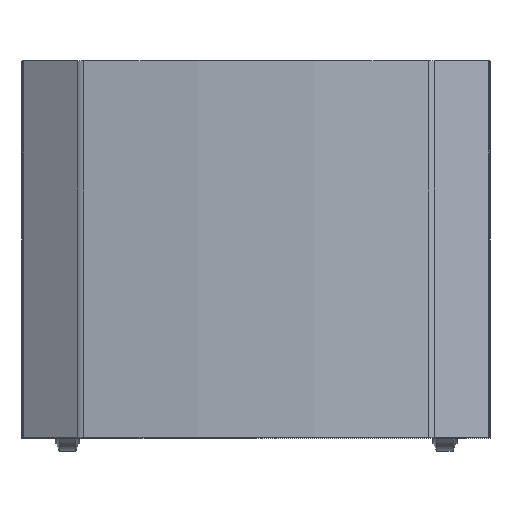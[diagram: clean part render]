
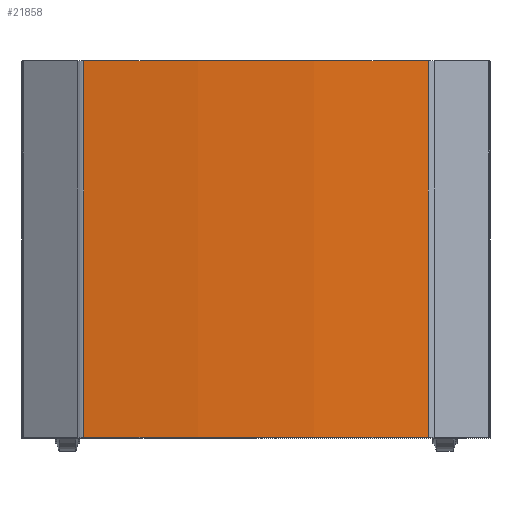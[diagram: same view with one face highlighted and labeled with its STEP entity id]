
A CAD part, top view. The second image highlights one B-rep face of the part: STEP entity #21858.
In plain terms, the highlighted cylindrical face has radius 1751 mm (diameter 3502 mm), a partial arc.
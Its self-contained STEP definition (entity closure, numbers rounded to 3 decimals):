
#249 = DIRECTION ( 'NONE',  ( 0., 1., 0. ) ) ;
#647 = CARTESIAN_POINT ( 'NONE',  ( -248.354, -271.35, 430.138 ) ) ;
#1002 = EDGE_LOOP ( 'NONE', ( #22950, #20669, #24640, #10368 ) ) ;
#1785 = CYLINDRICAL_SURFACE ( 'NONE', #17977, 1751. ) ;
#2994 = DIRECTION ( 'NONE',  ( 0., -1., 0. ) ) ;
#3700 = AXIS2_PLACEMENT_3D ( 'NONE', #13801, #17831, #13628 ) ;
#3910 = LINE ( 'NONE', #13682, #13766 ) ;
#3986 = CARTESIAN_POINT ( 'NONE',  ( 248.354, 271.35, 430.138 ) ) ;
#5360 = VERTEX_POINT ( 'NONE', #15251 ) ;
#5606 = DIRECTION ( 'NONE',  ( 0., 0., -1. ) ) ;
#5801 = CARTESIAN_POINT ( 'NONE',  ( 0., 271.35, -1303.16 ) ) ;
#6640 = AXIS2_PLACEMENT_3D ( 'NONE', #15202, #249, #21237 ) ;
#8633 = VERTEX_POINT ( 'NONE', #647 ) ;
#10266 = VERTEX_POINT ( 'NONE', #3986 ) ;
#10325 = CARTESIAN_POINT ( 'NONE',  ( 248.354, -271.35, 430.138 ) ) ;
#10368 = ORIENTED_EDGE ( 'NONE', *, *, #11235, .T. ) ;
#10984 = LINE ( 'NONE', #14018, #18863 ) ;
#11235 = EDGE_CURVE ( 'NONE', #5360, #8633, #3910, .T. ) ;
#13628 = DIRECTION ( 'NONE',  ( 0., 0., 1. ) ) ;
#13682 = CARTESIAN_POINT ( 'NONE',  ( -248.354, 271.35, 430.138 ) ) ;
#13766 = VECTOR ( 'NONE', #2994, 1000. ) ;
#13801 = CARTESIAN_POINT ( 'NONE',  ( 0., 271.35, -1303.16 ) ) ;
#13876 = DIRECTION ( 'NONE',  ( 0., -1., 0. ) ) ;
#14018 = CARTESIAN_POINT ( 'NONE',  ( 248.354, 271.35, 430.138 ) ) ;
#14363 = EDGE_CURVE ( 'NONE', #10266, #15847, #10984, .T. ) ;
#15202 = CARTESIAN_POINT ( 'NONE',  ( 0., -271.35, -1303.16 ) ) ;
#15251 = CARTESIAN_POINT ( 'NONE',  ( -248.354, 271.35, 430.138 ) ) ;
#15256 = FACE_OUTER_BOUND ( 'NONE', #1002, .T. ) ;
#15618 = CIRCLE ( 'NONE', #6640, 1751. ) ;
#15847 = VERTEX_POINT ( 'NONE', #10325 ) ;
#16303 = DIRECTION ( 'NONE',  ( 0., -1., 0. ) ) ;
#17831 = DIRECTION ( 'NONE',  ( 0., 1., 0. ) ) ;
#17977 = AXIS2_PLACEMENT_3D ( 'NONE', #5801, #13876, #5606 ) ;
#18863 = VECTOR ( 'NONE', #16303, 1000. ) ;
#20669 = ORIENTED_EDGE ( 'NONE', *, *, #14363, .F. ) ;
#21087 = EDGE_CURVE ( 'NONE', #5360, #10266, #25411, .T. ) ;
#21237 = DIRECTION ( 'NONE',  ( 0., 0., 1. ) ) ;
#21858 = ADVANCED_FACE ( 'NONE', ( #15256 ), #1785, .T. ) ;
#22950 = ORIENTED_EDGE ( 'NONE', *, *, #26674, .T. ) ;
#24640 = ORIENTED_EDGE ( 'NONE', *, *, #21087, .F. ) ;
#25411 = CIRCLE ( 'NONE', #3700, 1751. ) ;
#26674 = EDGE_CURVE ( 'NONE', #8633, #15847, #15618, .T. ) ;
